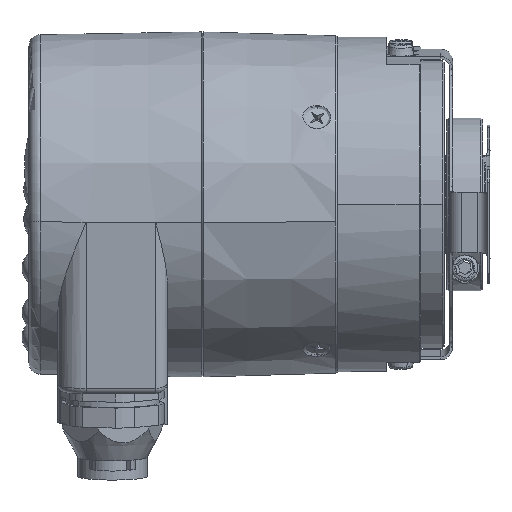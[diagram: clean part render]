
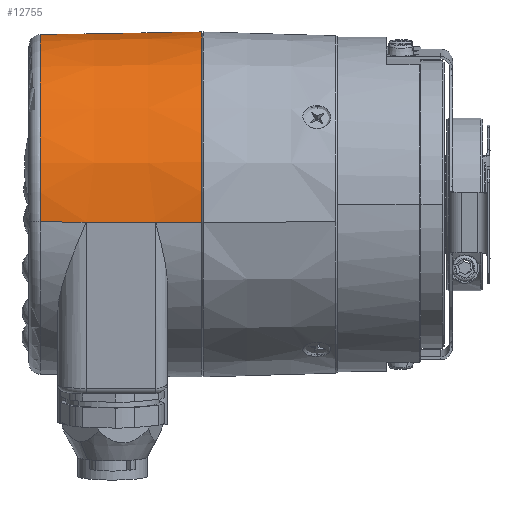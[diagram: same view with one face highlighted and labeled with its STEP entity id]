
A CAD part, top view. The second image highlights one B-rep face of the part: STEP entity #12755.
In plain terms, the highlighted conical face has half-angle 1 degrees and reference radius 30 mm.
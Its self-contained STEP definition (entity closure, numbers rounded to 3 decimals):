
#12532 = ORIENTED_EDGE ( 'NONE', *, *, #13172, .T. ) ;
#12755 = ADVANCED_FACE ( 'NONE', ( #23333 ), #23316, .T. ) ;
#12756 = EDGE_LOOP ( 'NONE', ( #12532, #13127, #13183, #13104, #13124, #13126, #13139, #13174 ) ) ;
#13071 = VERTEX_POINT ( 'NONE', #24325 ) ;
#13104 = ORIENTED_EDGE ( 'NONE', *, *, #13105, .T. ) ;
#13105 = EDGE_CURVE ( 'NONE', #13071, #13106, #24441, .T. ) ;
#13106 = VERTEX_POINT ( 'NONE', #24437 ) ;
#13107 = VERTEX_POINT ( 'NONE', #24436 ) ;
#13114 = VERTEX_POINT ( 'NONE', #24484 ) ;
#13124 = ORIENTED_EDGE ( 'NONE', *, *, #13125, .F. ) ;
#13125 = EDGE_CURVE ( 'NONE', #13107, #13106, #24502, .T. ) ;
#13126 = ORIENTED_EDGE ( 'NONE', *, *, #13137, .F. ) ;
#13127 = ORIENTED_EDGE ( 'NONE', *, *, #13171, .T. ) ;
#13137 = EDGE_CURVE ( 'NONE', #13138, #13107, #24542, .T. ) ;
#13138 = VERTEX_POINT ( 'NONE', #24538 ) ;
#13139 = ORIENTED_EDGE ( 'NONE', *, *, #13173, .F. ) ;
#13140 = VERTEX_POINT ( 'NONE', #24537 ) ;
#13141 = VERTEX_POINT ( 'NONE', #24536 ) ;
#13170 = VERTEX_POINT ( 'NONE', #24621 ) ;
#13171 = EDGE_CURVE ( 'NONE', #13114, #13170, #24620, .T. ) ;
#13172 = EDGE_CURVE ( 'NONE', #13141, #13114, #24616, .T. ) ;
#13173 = EDGE_CURVE ( 'NONE', #13140, #13138, #24611, .T. ) ;
#13174 = ORIENTED_EDGE ( 'NONE', *, *, #13175, .F. ) ;
#13175 = EDGE_CURVE ( 'NONE', #13141, #13140, #24606, .T. ) ;
#13183 = ORIENTED_EDGE ( 'NONE', *, *, #13184, .T. ) ;
#13184 = EDGE_CURVE ( 'NONE', #13170, #13071, #24634, .T. ) ;
#23313 = DIRECTION ( 'NONE',  ( 0., 0.105, -0.995 ) ) ;
#23314 = DIRECTION ( 'NONE',  ( 1., 0., 0. ) ) ;
#23315 = AXIS2_PLACEMENT_3D ( 'NONE', #23317, #23314, #23313 ) ;
#23316 = CONICAL_SURFACE ( 'NONE', #23315, 30., 0.017 ) ;
#23317 = CARTESIAN_POINT ( 'NONE',  ( -16., 0., 0. ) ) ;
#23333 = FACE_OUTER_BOUND ( 'NONE', #12756, .T. ) ;
#24325 = CARTESIAN_POINT ( 'NONE',  ( -24.035, -3.121, 29.696 ) ) ;
#24436 = CARTESIAN_POINT ( 'NONE',  ( -16., 3.136, -29.836 ) ) ;
#24437 = CARTESIAN_POINT ( 'NONE',  ( -16., -3.136, 29.836 ) ) ;
#24438 = DIRECTION ( 'NONE',  ( 1., -0.002, 0.017 ) ) ;
#24439 = VECTOR ( 'NONE', #24438, 1000. ) ;
#24440 = CARTESIAN_POINT ( 'NONE',  ( -16., -3.136, 29.836 ) ) ;
#24441 = LINE ( 'NONE', #24440, #24439 ) ;
#24484 = CARTESIAN_POINT ( 'NONE',  ( -44.035, -3.085, 29.349 ) ) ;
#24499 = DIRECTION ( 'NONE',  ( 0., 0.105, -0.995 ) ) ;
#24500 = DIRECTION ( 'NONE',  ( 1., 0., 0. ) ) ;
#24501 = AXIS2_PLACEMENT_3D ( 'NONE', #24507, #24500, #24499 ) ;
#24502 = CIRCLE ( 'NONE', #24501, 30. ) ;
#24507 = CARTESIAN_POINT ( 'NONE',  ( -16., 0., 0. ) ) ;
#24536 = CARTESIAN_POINT ( 'NONE',  ( -44.035, 3.085, -29.349 ) ) ;
#24537 = CARTESIAN_POINT ( 'NONE',  ( -36.087, 3.099, -29.487 ) ) ;
#24538 = CARTESIAN_POINT ( 'NONE',  ( -24.035, 3.121, -29.696 ) ) ;
#24539 = DIRECTION ( 'NONE',  ( 1., 0.002, -0.017 ) ) ;
#24540 = VECTOR ( 'NONE', #24539, 1000. ) ;
#24541 = CARTESIAN_POINT ( 'NONE',  ( -16., 3.136, -29.836 ) ) ;
#24542 = LINE ( 'NONE', #24541, #24540 ) ;
#24603 = DIRECTION ( 'NONE',  ( 1., 0.002, -0.017 ) ) ;
#24604 = VECTOR ( 'NONE', #24603, 1000. ) ;
#24605 = CARTESIAN_POINT ( 'NONE',  ( -16., 3.136, -29.836 ) ) ;
#24606 = LINE ( 'NONE', #24605, #24604 ) ;
#24608 = DIRECTION ( 'NONE',  ( 1., 0.002, -0.017 ) ) ;
#24609 = VECTOR ( 'NONE', #24608, 1000. ) ;
#24610 = CARTESIAN_POINT ( 'NONE',  ( -16.523, 3.135, -29.827 ) ) ;
#24611 = LINE ( 'NONE', #24610, #24609 ) ;
#24612 = DIRECTION ( 'NONE',  ( 0., -0.105, 0.995 ) ) ;
#24613 = DIRECTION ( 'NONE',  ( 1., 0., 0. ) ) ;
#24614 = CARTESIAN_POINT ( 'NONE',  ( -44.035, 0., 0. ) ) ;
#24615 = AXIS2_PLACEMENT_3D ( 'NONE', #24614, #24613, #24612 ) ;
#24616 = CIRCLE ( 'NONE', #24615, 29.511 ) ;
#24617 = DIRECTION ( 'NONE',  ( 1., -0.002, 0.017 ) ) ;
#24618 = VECTOR ( 'NONE', #24617, 1000. ) ;
#24619 = CARTESIAN_POINT ( 'NONE',  ( -16., -3.136, 29.836 ) ) ;
#24620 = LINE ( 'NONE', #24619, #24618 ) ;
#24621 = CARTESIAN_POINT ( 'NONE',  ( -36.087, -3.099, 29.487 ) ) ;
#24633 = CARTESIAN_POINT ( 'NONE',  ( -16.523, -3.135, 29.827 ) ) ;
#24634 = LINE ( 'NONE', #24633, #24686 ) ;
#24685 = DIRECTION ( 'NONE',  ( 1., -0.002, 0.017 ) ) ;
#24686 = VECTOR ( 'NONE', #24685, 1000. ) ;
